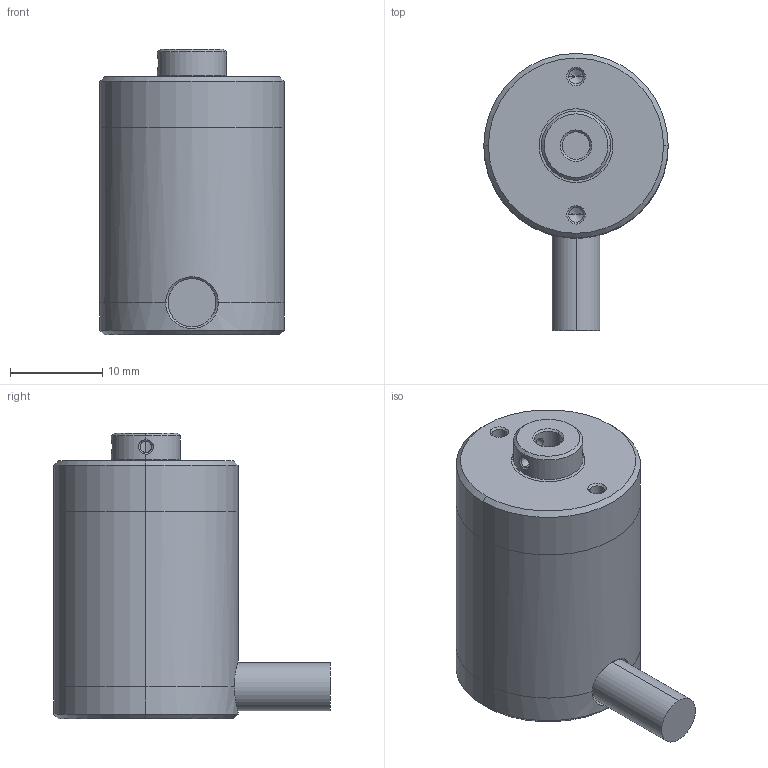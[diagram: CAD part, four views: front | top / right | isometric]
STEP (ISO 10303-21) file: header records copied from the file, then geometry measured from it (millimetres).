
FILE_DESCRIPTION (( 'STEP AP203' ), '1' );
FILE_NAME ('ËÈÐ-220À (Äèàìåòð îòâåðñòèÿ 3 ìì).STEP', '2014-07-21T09:52:17', ( '' ), ( '' ), 'SwSTEP 2.0', 'SolidWorks 2013', '' );
FILE_SCHEMA (( 'CONFIG_CONTROL_DESIGN' ));
Length unit declared in the file: millimetre
Products named in the file (1): ËÈÐ-220À (Äèàìåòð îòâåðñòèÿ 3 ìì)
Bounding box: 20 x 30 x 31 mm (x, y, z)
Volume: 9118.9 mm3; surface area: 6427.9 mm2
Topology: 5 solids, 5 shells, 91 faces, 202 edges, 125 vertices
Faces by surface type: cylinder 41, plane 28, cone 16, bspline 6
Entity records: 5748 total; most frequent: CARTESIAN_POINT 3660, DIRECTION 434, ORIENTED_EDGE 396, EDGE_CURVE 198, AXIS2_PLACEMENT_3D 178, VERTEX_POINT 125, EDGE_LOOP 105, CIRCLE 92
